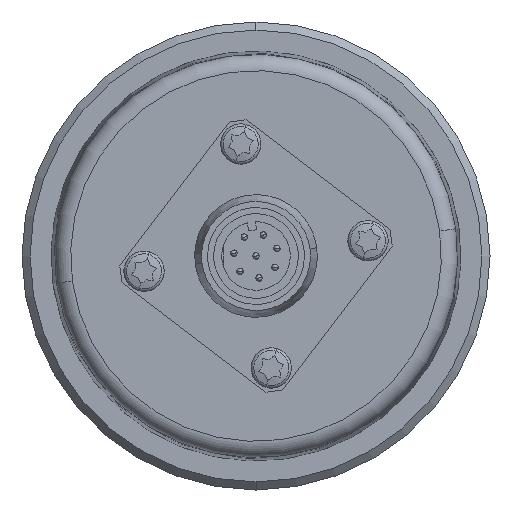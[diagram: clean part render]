
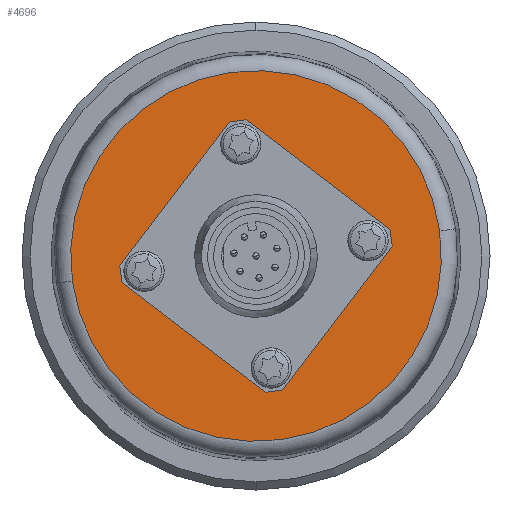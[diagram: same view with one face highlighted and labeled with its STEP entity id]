
A CAD part, left-side view. The second image highlights one B-rep face of the part: STEP entity #4696.
In plain terms, the highlighted planar face has unit normal (-1, 0, 0).
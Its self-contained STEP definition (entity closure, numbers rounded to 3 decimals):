
#10 = CARTESIAN_POINT ( 'NONE',  ( -21., -22.761, 3.107 ) ) ;
#11 = DIRECTION ( 'NONE',  ( 0., 0.991, -0.135 ) ) ;
#12 = DIRECTION ( 'NONE',  ( -1., 0., 0. ) ) ;
#13 = AXIS2_PLACEMENT_3D ( 'NONE', #20, #12, #11 ) ;
#14 = CIRCLE ( 'NONE', #13, 22.972 ) ;
#15 = DIRECTION ( 'NONE',  ( 0., 0.991, -0.135 ) ) ;
#16 = DIRECTION ( 'NONE',  ( 1., 0., 0. ) ) ;
#17 = CARTESIAN_POINT ( 'NONE',  ( -21., -13.872, 1.894 ) ) ;
#18 = AXIS2_PLACEMENT_3D ( 'NONE', #17, #16, #15 ) ;
#19 = CIRCLE ( 'NONE', #18, 1.389 ) ;
#20 = CARTESIAN_POINT ( 'NONE',  ( -21., 0., 0. ) ) ;
#21 = CARTESIAN_POINT ( 'NONE',  ( -21., -15.248, 2.081 ) ) ;
#22 = CARTESIAN_POINT ( 'NONE',  ( -21., -12.496, 1.706 ) ) ;
#23 = DIRECTION ( 'NONE',  ( 0., 0.991, -0.135 ) ) ;
#24 = DIRECTION ( 'NONE',  ( 1., 0., 0. ) ) ;
#25 = CARTESIAN_POINT ( 'NONE',  ( -21., -13.872, 1.894 ) ) ;
#26 = AXIS2_PLACEMENT_3D ( 'NONE', #25, #24, #23 ) ;
#27 = CIRCLE ( 'NONE', #26, 1.389 ) ;
#374 = DIRECTION ( 'NONE',  ( 0., -0.991, 0.135 ) ) ;
#375 = DIRECTION ( 'NONE',  ( -1., 0., 0. ) ) ;
#380 = CIRCLE ( 'NONE', #391, 11.5 ) ;
#382 = CARTESIAN_POINT ( 'NONE',  ( -21., 0., 0. ) ) ;
#391 = AXIS2_PLACEMENT_3D ( 'NONE', #382, #375, #374 ) ;
#438 = CARTESIAN_POINT ( 'NONE',  ( -21., -11.394, 1.555 ) ) ;
#439 = CARTESIAN_POINT ( 'NONE',  ( -21., 11.394, -1.555 ) ) ;
#440 = DIRECTION ( 'NONE',  ( 0., -0.991, 0.135 ) ) ;
#441 = DIRECTION ( 'NONE',  ( -1., 0., 0. ) ) ;
#442 = CARTESIAN_POINT ( 'NONE',  ( -21., 0., 0. ) ) ;
#443 = AXIS2_PLACEMENT_3D ( 'NONE', #442, #441, #440 ) ;
#445 = CIRCLE ( 'NONE', #443, 11.5 ) ;
#4696 = ADVANCED_FACE ( 'NONE', ( #8684, #8676, #8679, #8648, #8647, #8675 ), #8661, .F. ) ;
#4697 = EDGE_LOOP ( 'NONE', ( #4698, #4706 ) ) ;
#4698 = ORIENTED_EDGE ( 'NONE', *, *, #4699, .T. ) ;
#4699 = EDGE_CURVE ( 'NONE', #4700, #4701, #8720, .T. ) ;
#4700 = VERTEX_POINT ( 'NONE', #8712 ) ;
#4701 = VERTEX_POINT ( 'NONE', #8710 ) ;
#4702 = VERTEX_POINT ( 'NONE', #8677 ) ;
#4706 = ORIENTED_EDGE ( 'NONE', *, *, #4707, .T. ) ;
#4707 = EDGE_CURVE ( 'NONE', #4701, #4700, #8708, .T. ) ;
#4708 = EDGE_LOOP ( 'NONE', ( #4709, #4713 ) ) ;
#4709 = ORIENTED_EDGE ( 'NONE', *, *, #4710, .T. ) ;
#4710 = EDGE_CURVE ( 'NONE', #4711, #4712, #8699, .T. ) ;
#4711 = VERTEX_POINT ( 'NONE', #8695 ) ;
#4712 = VERTEX_POINT ( 'NONE', #8694 ) ;
#4713 = ORIENTED_EDGE ( 'NONE', *, *, #4714, .T. ) ;
#4714 = EDGE_CURVE ( 'NONE', #4712, #4711, #8692, .T. ) ;
#4742 = EDGE_LOOP ( 'NONE', ( #4743, #4747 ) ) ;
#4743 = ORIENTED_EDGE ( 'NONE', *, *, #4744, .T. ) ;
#4744 = EDGE_CURVE ( 'NONE', #4745, #4746, #8815, .T. ) ;
#4745 = VERTEX_POINT ( 'NONE', #8810 ) ;
#4746 = VERTEX_POINT ( 'NONE', #8809 ) ;
#4747 = ORIENTED_EDGE ( 'NONE', *, *, #4748, .T. ) ;
#4748 = EDGE_CURVE ( 'NONE', #4746, #4745, #8808, .T. ) ;
#4749 = EDGE_LOOP ( 'NONE', ( #4750, #4802 ) ) ;
#4750 = ORIENTED_EDGE ( 'NONE', *, *, #4799, .T. ) ;
#4764 = EDGE_CURVE ( 'NONE', #4809, #4702, #8852, .T. ) ;
#4799 = EDGE_CURVE ( 'NONE', #4800, #4801, #27, .T. ) ;
#4800 = VERTEX_POINT ( 'NONE', #22 ) ;
#4801 = VERTEX_POINT ( 'NONE', #21 ) ;
#4802 = ORIENTED_EDGE ( 'NONE', *, *, #4803, .T. ) ;
#4803 = EDGE_CURVE ( 'NONE', #4801, #4800, #19, .T. ) ;
#4804 = EDGE_LOOP ( 'NONE', ( #4805, #4807 ) ) ;
#4805 = ORIENTED_EDGE ( 'NONE', *, *, #4806, .T. ) ;
#4806 = EDGE_CURVE ( 'NONE', #4702, #4809, #14, .T. ) ;
#4807 = ORIENTED_EDGE ( 'NONE', *, *, #4764, .T. ) ;
#4809 = VERTEX_POINT ( 'NONE', #10 ) ;
#4934 = ORIENTED_EDGE ( 'NONE', *, *, #4935, .F. ) ;
#4935 = EDGE_CURVE ( 'NONE', #4953, #4955, #380, .T. ) ;
#4951 = ORIENTED_EDGE ( 'NONE', *, *, #4952, .F. ) ;
#4952 = EDGE_CURVE ( 'NONE', #4955, #4953, #445, .T. ) ;
#4953 = VERTEX_POINT ( 'NONE', #439 ) ;
#4954 = EDGE_LOOP ( 'NONE', ( #4951, #4934 ) ) ;
#4955 = VERTEX_POINT ( 'NONE', #438 ) ;
#8647 = FACE_OUTER_BOUND ( 'NONE', #4804, .T. ) ;
#8648 = FACE_BOUND ( 'NONE', #4749, .T. ) ;
#8661 = PLANE ( 'NONE',  #8662 ) ;
#8662 = AXIS2_PLACEMENT_3D ( 'NONE', #8719, #8718, #8717 ) ;
#8675 = FACE_BOUND ( 'NONE', #4954, .T. ) ;
#8676 = FACE_BOUND ( 'NONE', #4708, .T. ) ;
#8677 = CARTESIAN_POINT ( 'NONE',  ( -21., 22.761, -3.107 ) ) ;
#8679 = FACE_BOUND ( 'NONE', #4742, .T. ) ;
#8684 = FACE_BOUND ( 'NONE', #4697, .T. ) ;
#8687 = DIRECTION ( 'NONE',  ( 0., 0.991, -0.135 ) ) ;
#8688 = DIRECTION ( 'NONE',  ( 1., 0., 0. ) ) ;
#8689 = CARTESIAN_POINT ( 'NONE',  ( -21., -1.894, -13.872 ) ) ;
#8692 = CIRCLE ( 'NONE', #8711, 1.389 ) ;
#8694 = CARTESIAN_POINT ( 'NONE',  ( -21., -3.269, -13.684 ) ) ;
#8695 = CARTESIAN_POINT ( 'NONE',  ( -21., -0.518, -14.06 ) ) ;
#8696 = DIRECTION ( 'NONE',  ( 0., 0.991, -0.135 ) ) ;
#8697 = DIRECTION ( 'NONE',  ( 1., 0., 0. ) ) ;
#8698 = AXIS2_PLACEMENT_3D ( 'NONE', #8702, #8697, #8696 ) ;
#8699 = CIRCLE ( 'NONE', #8698, 1.389 ) ;
#8700 = DIRECTION ( 'NONE',  ( 0., 0.991, -0.135 ) ) ;
#8701 = DIRECTION ( 'NONE',  ( 1., 0., 0. ) ) ;
#8702 = CARTESIAN_POINT ( 'NONE',  ( -21., -1.894, -13.872 ) ) ;
#8703 = AXIS2_PLACEMENT_3D ( 'NONE', #8709, #8701, #8700 ) ;
#8708 = CIRCLE ( 'NONE', #8703, 1.389 ) ;
#8709 = CARTESIAN_POINT ( 'NONE',  ( -21., 13.872, -1.894 ) ) ;
#8710 = CARTESIAN_POINT ( 'NONE',  ( -21., 12.496, -1.706 ) ) ;
#8711 = AXIS2_PLACEMENT_3D ( 'NONE', #8689, #8688, #8687 ) ;
#8712 = CARTESIAN_POINT ( 'NONE',  ( -21., 15.248, -2.081 ) ) ;
#8713 = DIRECTION ( 'NONE',  ( 0., 0.991, -0.135 ) ) ;
#8714 = DIRECTION ( 'NONE',  ( 1., 0., 0. ) ) ;
#8715 = CARTESIAN_POINT ( 'NONE',  ( -21., 13.872, -1.894 ) ) ;
#8716 = AXIS2_PLACEMENT_3D ( 'NONE', #8715, #8714, #8713 ) ;
#8717 = DIRECTION ( 'NONE',  ( 0., 0.991, -0.135 ) ) ;
#8718 = DIRECTION ( 'NONE',  ( 1., 0., 0. ) ) ;
#8719 = CARTESIAN_POINT ( 'NONE',  ( -21., 0., 0. ) ) ;
#8720 = CIRCLE ( 'NONE', #8716, 1.389 ) ;
#8804 = DIRECTION ( 'NONE',  ( 0., 0.991, -0.135 ) ) ;
#8805 = DIRECTION ( 'NONE',  ( 1., 0., 0. ) ) ;
#8806 = CARTESIAN_POINT ( 'NONE',  ( -21., 1.894, 13.872 ) ) ;
#8807 = AXIS2_PLACEMENT_3D ( 'NONE', #8806, #8805, #8804 ) ;
#8808 = CIRCLE ( 'NONE', #8807, 1.389 ) ;
#8809 = CARTESIAN_POINT ( 'NONE',  ( -21., 0.518, 14.06 ) ) ;
#8810 = CARTESIAN_POINT ( 'NONE',  ( -21., 3.269, 13.684 ) ) ;
#8811 = DIRECTION ( 'NONE',  ( 0., 0.991, -0.135 ) ) ;
#8812 = DIRECTION ( 'NONE',  ( 1., 0., 0. ) ) ;
#8813 = CARTESIAN_POINT ( 'NONE',  ( -21., 1.894, 13.872 ) ) ;
#8814 = AXIS2_PLACEMENT_3D ( 'NONE', #8813, #8812, #8811 ) ;
#8815 = CIRCLE ( 'NONE', #8814, 1.389 ) ;
#8852 = CIRCLE ( 'NONE', #8882, 22.972 ) ;
#8879 = DIRECTION ( 'NONE',  ( 0., 0.991, -0.135 ) ) ;
#8880 = DIRECTION ( 'NONE',  ( -1., 0., 0. ) ) ;
#8881 = CARTESIAN_POINT ( 'NONE',  ( -21., 0., 0. ) ) ;
#8882 = AXIS2_PLACEMENT_3D ( 'NONE', #8881, #8880, #8879 ) ;
